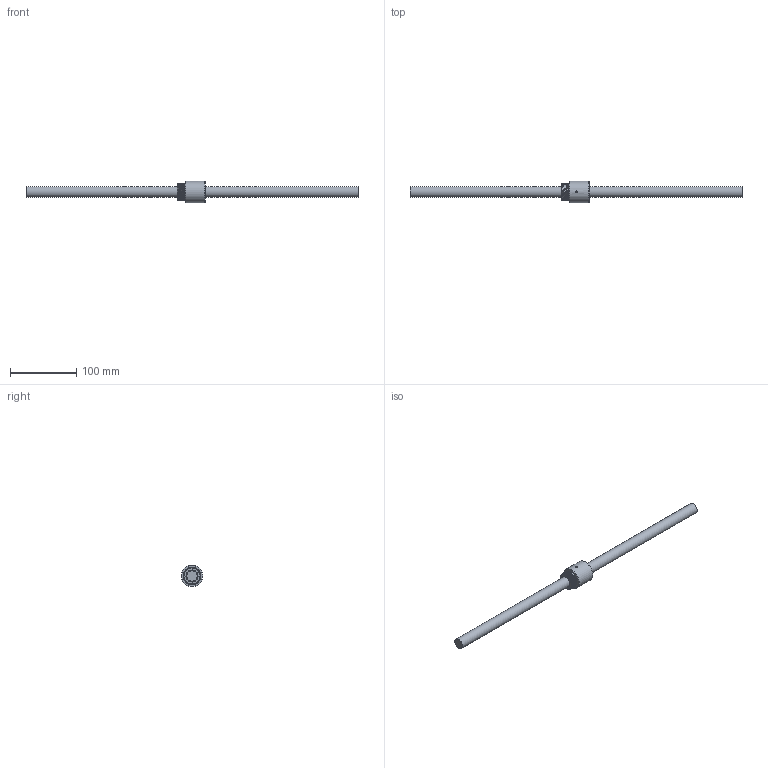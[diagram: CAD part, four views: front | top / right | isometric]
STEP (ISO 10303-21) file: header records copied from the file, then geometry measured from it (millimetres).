
FILE_DESCRIPTION (( 'STEP AP203' ), '1' );
FILE_NAME ('BSHR01605-3.step', '2024-05-31T07:16:56', ( '' ), ( '' ), 'SwSTEP 2.0', 'SolidWorks 2022', '' );
FILE_SCHEMA (( 'CONFIG_CONTROL_DESIGN' ));
Length unit declared in the file: millimetre
Products named in the file (1): BSHR01605-3
Bounding box: 500 x 32.5 x 32.5 mm (x, y, z)
Volume: 120376.6 mm3; surface area: 33617.6 mm2
Topology: 2 solids, 2 shells, 19 faces, 40 edges, 27 vertices
Faces by surface type: plane 6, cylinder 6, bspline 3, cone 2, torus 2
Full cylindrical faces by diameter (mm): 3 x1, 16 x1, 18.1 x1, 23.6 x1, 32.5 x1
Entity records: 1946 total; most frequent: CARTESIAN_POINT 1551, DIRECTION 58, ORIENTED_EDGE 54, EDGE_LOOP 32, AXIS2_PLACEMENT_3D 29, EDGE_CURVE 27, FACE_OUTER_BOUND 26, VERTEX_POINT 23
